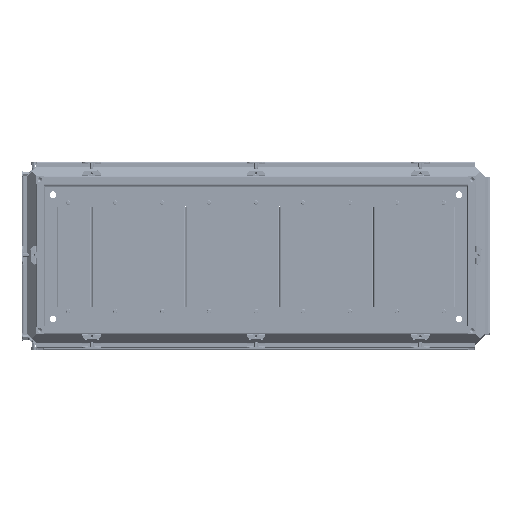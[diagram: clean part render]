
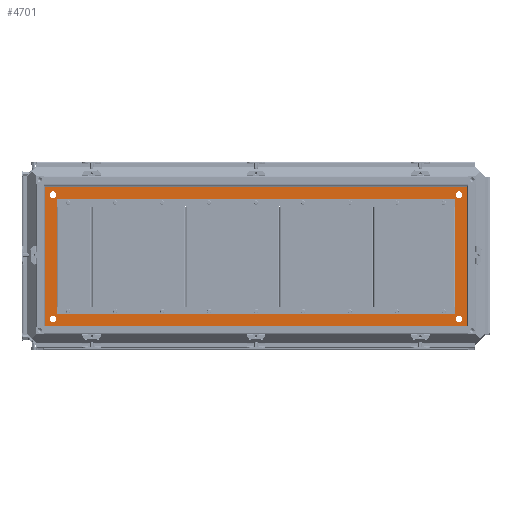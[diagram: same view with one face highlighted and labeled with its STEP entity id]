
A CAD part, top view. The second image highlights one B-rep face of the part: STEP entity #4701.
In plain terms, the highlighted planar face has unit normal (0, 0, 1).
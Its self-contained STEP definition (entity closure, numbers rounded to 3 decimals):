
#4701=ADVANCED_FACE('',(#18835,#18837,#18839,#18841,#18843,#18845),#18847,.F.);
#18835=FACE_BOUND('',#18836,.T.);
#18836=EDGE_LOOP('',(#128855,#128856,#128857,#128858));
#18837=FACE_BOUND('',#18838,.T.);
#18838=EDGE_LOOP('',(#128859,#128860,#128861,#128862));
#18839=FACE_BOUND('',#18840,.T.);
#18840=EDGE_LOOP('',(#128863));
#18841=FACE_BOUND('',#18842,.T.);
#18842=EDGE_LOOP('',(#128864));
#18843=FACE_BOUND('',#18844,.T.);
#18844=EDGE_LOOP('',(#128865));
#18845=FACE_BOUND('',#18846,.T.);
#18846=EDGE_LOOP('',(#128866));
#18847=PLANE('',#18848);
#18848=AXIS2_PLACEMENT_3D('',#18849,#18850,#18851);
#18849=CARTESIAN_POINT('',(0.,0.,-47.5));
#18850=DIRECTION('',(0.,0.,-1.));
#18851=DIRECTION('',(0.,1.,0.));
#128855=ORIENTED_EDGE('',*,*,#195933,.F.);
#128856=ORIENTED_EDGE('',*,*,#195934,.F.);
#128857=ORIENTED_EDGE('',*,*,#195935,.T.);
#128858=ORIENTED_EDGE('',*,*,#195936,.T.);
#128859=ORIENTED_EDGE('',*,*,#195937,.T.);
#128860=ORIENTED_EDGE('',*,*,#195938,.F.);
#128861=ORIENTED_EDGE('',*,*,#195939,.F.);
#128862=ORIENTED_EDGE('',*,*,#195940,.F.);
#128863=ORIENTED_EDGE('',*,*,#195941,.T.);
#128864=ORIENTED_EDGE('',*,*,#195942,.F.);
#128865=ORIENTED_EDGE('',*,*,#195943,.F.);
#128866=ORIENTED_EDGE('',*,*,#195944,.T.);
#195933=EDGE_CURVE('',#230388,#230389,#230390,.F.);
#195934=EDGE_CURVE('',#230391,#230388,#230392,.F.);
#195935=EDGE_CURVE('',#230391,#230393,#230394,.F.);
#195936=EDGE_CURVE('',#230393,#230389,#230395,.F.);
#195937=EDGE_CURVE('',#230396,#230397,#230398,.F.);
#195938=EDGE_CURVE('',#230399,#230397,#230400,.F.);
#195939=EDGE_CURVE('',#230401,#230399,#230402,.F.);
#195940=EDGE_CURVE('',#230396,#230401,#230403,.F.);
#195941=EDGE_CURVE('',#230404,#230404,#230405,.T.);
#195942=EDGE_CURVE('',#230406,#230406,#230407,.T.);
#195943=EDGE_CURVE('',#230408,#230408,#230409,.T.);
#195944=EDGE_CURVE('',#230410,#230410,#230411,.T.);
#230388=VERTEX_POINT('',#290309);
#230389=VERTEX_POINT('',#290310);
#230390=LINE('',#290311,#290312);
#230391=VERTEX_POINT('',#290314);
#230392=LINE('',#290315,#290316);
#230393=VERTEX_POINT('',#290318);
#230394=LINE('',#290319,#290320);
#230395=LINE('',#290322,#290323);
#230396=VERTEX_POINT('',#290325);
#230397=VERTEX_POINT('',#290326);
#230398=LINE('',#290327,#290328);
#230399=VERTEX_POINT('',#290330);
#230400=LINE('',#290331,#290332);
#230401=VERTEX_POINT('',#290334);
#230402=LINE('',#290335,#290336);
#230403=LINE('',#290338,#290339);
#230404=VERTEX_POINT('',#290341);
#230405=CIRCLE('',#290342,7.);
#230406=VERTEX_POINT('',#290346);
#230407=CIRCLE('',#290347,7.);
#230408=VERTEX_POINT('',#290351);
#230409=CIRCLE('',#290352,7.);
#230410=VERTEX_POINT('',#290356);
#230411=CIRCLE('',#290357,7.);
#290309=CARTESIAN_POINT('',(-1.6,1.6,-47.5));
#290310=CARTESIAN_POINT('',(-900.4,1.6,-47.5));
#290311=CARTESIAN_POINT('',(-900.4,1.6,-47.5));
#290312=VECTOR('',#290313,1.);
#290313=DIRECTION('',(1.,0.,0.));
#290314=CARTESIAN_POINT('',(-1.6,300.4,-47.5));
#290315=CARTESIAN_POINT('',(-1.6,1.6,-47.5));
#290316=VECTOR('',#290317,1.);
#290317=DIRECTION('',(0.,1.,0.));
#290318=CARTESIAN_POINT('',(-900.4,300.4,-47.5));
#290319=CARTESIAN_POINT('',(-900.4,300.4,-47.5));
#290320=VECTOR('',#290321,1.);
#290321=DIRECTION('',(1.,0.,0.));
#290322=CARTESIAN_POINT('',(-900.4,1.6,-47.5));
#290323=VECTOR('',#290324,1.);
#290324=DIRECTION('',(0.,1.,0.));
#290325=CARTESIAN_POINT('',(-39.4,39.4,-47.5));
#290326=CARTESIAN_POINT('',(-862.6,39.4,-47.5));
#290327=CARTESIAN_POINT('',(-862.6,39.4,-47.5));
#290328=VECTOR('',#290329,1.);
#290329=DIRECTION('',(1.,0.,0.));
#290330=CARTESIAN_POINT('',(-862.6,262.6,-47.5));
#290331=CARTESIAN_POINT('',(-862.6,39.4,-47.5));
#290332=VECTOR('',#290333,1.);
#290333=DIRECTION('',(0.,1.,0.));
#290334=CARTESIAN_POINT('',(-39.4,262.6,-47.5));
#290335=CARTESIAN_POINT('',(-862.6,262.6,-47.5));
#290336=VECTOR('',#290337,1.);
#290337=DIRECTION('',(1.,0.,0.));
#290338=CARTESIAN_POINT('',(-39.4,262.6,-47.5));
#290339=VECTOR('',#290340,1.);
#290340=DIRECTION('',(0.,-1.,0.));
#290341=CARTESIAN_POINT('',(-18.5,25.5,-47.5));
#290342=AXIS2_PLACEMENT_3D('',#290343,#290344,#290345);
#290343=CARTESIAN_POINT('',(-18.5,18.5,-47.5));
#290344=DIRECTION('',(0.,0.,-1.));
#290345=DIRECTION('',(0.,1.,0.));
#290346=CARTESIAN_POINT('',(-883.5,25.5,-47.5));
#290347=AXIS2_PLACEMENT_3D('',#290348,#290349,#290350);
#290348=CARTESIAN_POINT('',(-883.5,18.5,-47.5));
#290349=DIRECTION('',(0.,0.,1.));
#290350=DIRECTION('',(0.,1.,0.));
#290351=CARTESIAN_POINT('',(-18.5,276.5,-47.5));
#290352=AXIS2_PLACEMENT_3D('',#290353,#290354,#290355);
#290353=CARTESIAN_POINT('',(-18.5,283.5,-47.5));
#290354=DIRECTION('',(0.,0.,1.));
#290355=DIRECTION('',(0.,-1.,0.));
#290356=CARTESIAN_POINT('',(-883.5,276.5,-47.5));
#290357=AXIS2_PLACEMENT_3D('',#290358,#290359,#290360);
#290358=CARTESIAN_POINT('',(-883.5,283.5,-47.5));
#290359=DIRECTION('',(0.,0.,-1.));
#290360=DIRECTION('',(0.,-1.,0.));
